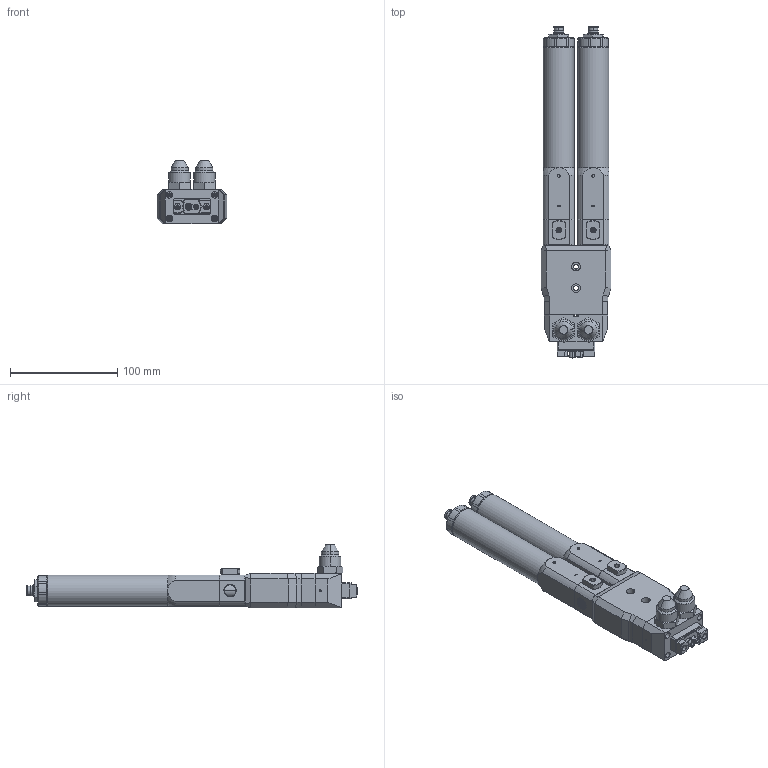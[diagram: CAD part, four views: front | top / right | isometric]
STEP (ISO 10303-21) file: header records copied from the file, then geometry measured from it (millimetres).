
FILE_DESCRIPTION (( 'STEP AP214' ), '1' );
FILE_NAME ('PDP-500-150BB.STEP', '2024-10-11T12:12:31', ( '' ), ( '' ), 'SwSTEP 2.0', 'SolidWorks 2024', '' );
FILE_SCHEMA (( 'AUTOMOTIVE_DESIGN' ));
Length unit declared in the file: millimetre
Products named in the file (1): PDP-500-150BB
Bounding box: 65 x 309 x 59.3 mm (x, y, z)
Volume: 463793.2 mm3; surface area: 105599.8 mm2
Topology: 13 solids, 13 shells, 1282 faces, 3192 edges, 2020 vertices
Faces by surface type: plane 493, cylinder 456, cone 275, bspline 38, torus 12, sphere 8
Full cylindrical faces by diameter (mm): 29 x2
Entity records: 77209 total; most frequent: CARTESIAN_POINT 47645, ORIENTED_EDGE 6318, DIRECTION 5834, EDGE_CURVE 3159, AXIS2_PLACEMENT_3D 2268, VERTEX_POINT 2019, EDGE_LOOP 1440, LINE 1298
